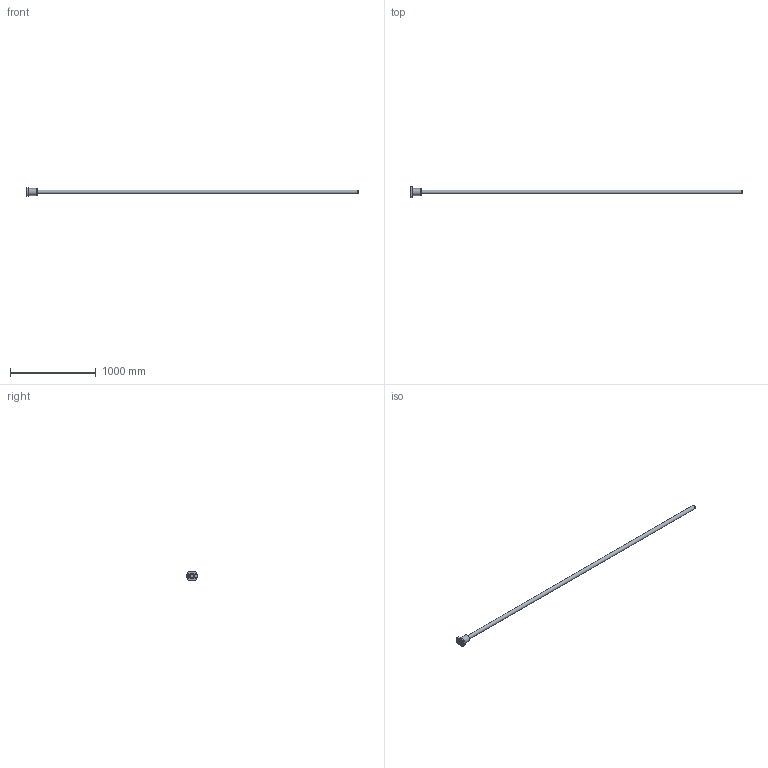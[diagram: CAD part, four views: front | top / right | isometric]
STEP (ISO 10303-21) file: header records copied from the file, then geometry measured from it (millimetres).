
FILE_DESCRIPTION( ( 'STEP AP203' ), ' ' );
FILE_NAME( 'p:/temp/worker_50/3228_2824/app_69_12018011810540364342790818fa3fd_000000_00_00_000000/format_0/BTK 4512V-5.3ZZ+3863LT_37250.stp', '2018-01-18T09:54:04', ( '' ), ( '' ), ' ', 'PARTsolutions', ' ' );
FILE_SCHEMA( ( 'CONFIG_CONTROL_DESIGN' ) );
Length unit declared in the file: millimetre
Products named in the file (3): BTK 4512V-5.3ZZ+3863LT_37250; _BTK 4512V-5.33725 Shaft; _BTK 4512V-5.3ZZ Nut
Assembly tree (2 placements, depth 2):
  BTK 4512V-5.3ZZ+3863LT_37250
    _BTK 4512V-5.33725 Shaft
    _BTK 4512V-5.3ZZ Nut
Bounding box: 3863 x 128 x 94 mm (x, y, z)
Volume: 6655824.5 mm3; surface area: 624093.3 mm2
Topology: 2 solids, 2 shells, 39 faces, 84 edges, 55 vertices
Faces by surface type: cylinder 17, plane 14, cone 8
Full cylindrical faces by diameter (mm): 4.917 x1, 14 x4, 36 x2, 45 x4, 54 x2, 73.8 x1, 82 x1
Entity records: 1204 total; most frequent: CARTESIAN_POINT 305, DIRECTION 174, ORIENTED_EDGE 122, AXIS2_PLACEMENT_3D 82, EDGE_LOOP 76, EDGE_CURVE 61, FACE_OUTER_BOUND 54, VERTEX_POINT 51
